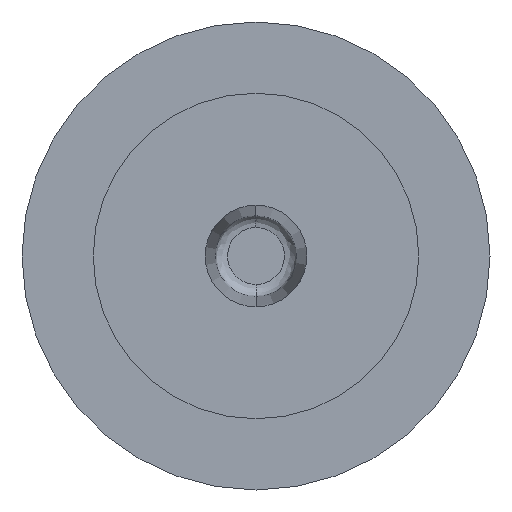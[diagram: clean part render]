
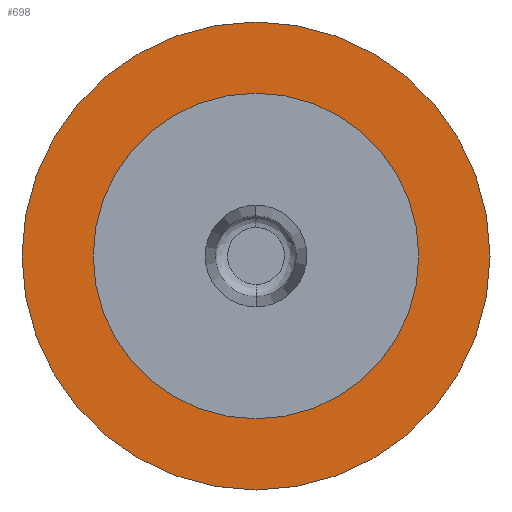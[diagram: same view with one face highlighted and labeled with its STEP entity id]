
A CAD part, front view. The second image highlights one B-rep face of the part: STEP entity #698.
In plain terms, the highlighted planar face has unit normal (0, -1, 0).
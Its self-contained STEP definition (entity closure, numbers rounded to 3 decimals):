
#4 = AXIS2_PLACEMENT_3D ( 'NONE', #113, #110, #95 ) ;
#24 = AXIS2_PLACEMENT_3D ( 'NONE', #452, #451, #450 ) ;
#25 = AXIS2_PLACEMENT_3D ( 'NONE', #455, #454, #453 ) ;
#35 = AXIS2_PLACEMENT_3D ( 'NONE', #500, #499, #498 ) ;
#46 = CARTESIAN_POINT ( 'NONE',  ( 0., 0., -4. ) ) ;
#50 = CARTESIAN_POINT ( 'NONE',  ( 0., 0., 4. ) ) ;
#62 = CARTESIAN_POINT ( 'NONE',  ( 0., 0., 5.75 ) ) ;
#71 = CARTESIAN_POINT ( 'NONE',  ( 0., 0., -5.75 ) ) ;
#95 = DIRECTION ( 'NONE',  ( 0., 0., -1. ) ) ;
#110 = DIRECTION ( 'NONE',  ( 0., -1., 0. ) ) ;
#113 = CARTESIAN_POINT ( 'NONE',  ( 0., 0., 0. ) ) ;
#450 = DIRECTION ( 'NONE',  ( 0., 0., -1. ) ) ;
#451 = DIRECTION ( 'NONE',  ( 0., -1., 0. ) ) ;
#452 = CARTESIAN_POINT ( 'NONE',  ( 0., 0., 0. ) ) ;
#453 = DIRECTION ( 'NONE',  ( 0., 0., -1. ) ) ;
#454 = DIRECTION ( 'NONE',  ( 0., 1., 0. ) ) ;
#455 = CARTESIAN_POINT ( 'NONE',  ( 0., 0., 0. ) ) ;
#498 = DIRECTION ( 'NONE',  ( 0., 0., -1. ) ) ;
#499 = DIRECTION ( 'NONE',  ( 0., 1., 0. ) ) ;
#500 = CARTESIAN_POINT ( 'NONE',  ( 0., 0., 0. ) ) ;
#534 = DIRECTION ( 'NONE',  ( 0., 0., -1. ) ) ;
#536 = PLANE ( 'NONE',  #775 ) ;
#537 = CARTESIAN_POINT ( 'NONE',  ( -5.819, 0., 5.819 ) ) ;
#554 = DIRECTION ( 'NONE',  ( 0., -1., 0. ) ) ;
#698 = ADVANCED_FACE ( 'NONE', ( #984, #987 ), #536, .T. ) ;
#709 = EDGE_CURVE ( 'NONE', #796, #792, #973, .T. ) ;
#737 = EDGE_CURVE ( 'NONE', #792, #796, #949, .T. ) ;
#738 = EDGE_CURVE ( 'NONE', #780, #788, #946, .T. ) ;
#763 = EDGE_CURVE ( 'NONE', #788, #780, #930, .T. ) ;
#775 = AXIS2_PLACEMENT_3D ( 'NONE', #537, #554, #534 ) ;
#780 = VERTEX_POINT ( 'NONE', #62 ) ;
#788 = VERTEX_POINT ( 'NONE', #71 ) ;
#792 = VERTEX_POINT ( 'NONE', #50 ) ;
#796 = VERTEX_POINT ( 'NONE', #46 ) ;
#871 = EDGE_LOOP ( 'NONE', ( #913, #888 ) ) ;
#888 = ORIENTED_EDGE ( 'NONE', *, *, #738, .T. ) ;
#896 = EDGE_LOOP ( 'NONE', ( #1030, #914 ) ) ;
#913 = ORIENTED_EDGE ( 'NONE', *, *, #763, .T. ) ;
#914 = ORIENTED_EDGE ( 'NONE', *, *, #737, .T. ) ;
#930 = CIRCLE ( 'NONE', #4, 5.75 ) ;
#946 = CIRCLE ( 'NONE', #24, 5.75 ) ;
#949 = CIRCLE ( 'NONE', #25, 4. ) ;
#973 = CIRCLE ( 'NONE', #35, 4. ) ;
#984 = FACE_BOUND ( 'NONE', #896, .T. ) ;
#987 = FACE_OUTER_BOUND ( 'NONE', #871, .T. ) ;
#1030 = ORIENTED_EDGE ( 'NONE', *, *, #709, .T. ) ;
